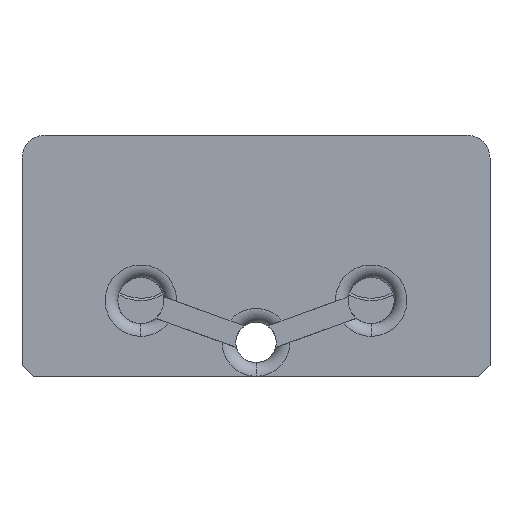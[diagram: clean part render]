
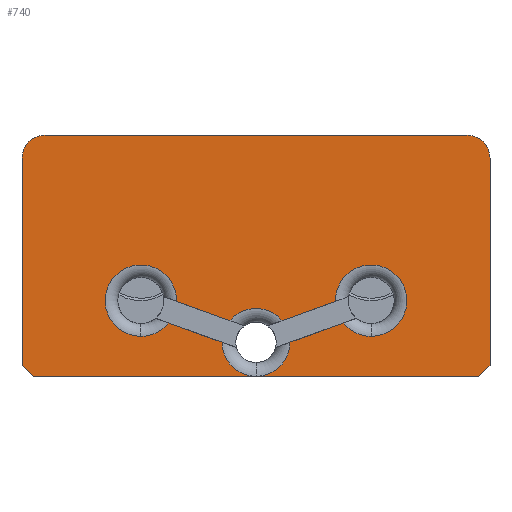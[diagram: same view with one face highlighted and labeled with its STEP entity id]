
A CAD part, front view. The second image highlights one B-rep face of the part: STEP entity #740.
In plain terms, the highlighted planar face has unit normal (0, -1, 0).
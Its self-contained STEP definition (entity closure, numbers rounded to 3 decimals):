
#570=CARTESIAN_POINT('',(0.,94.2,0.));
#571=DIRECTION('',(0.,-1.,0.));
#572=DIRECTION('',(1.,0.,0.));
#573=AXIS2_PLACEMENT_3D('',#570,#571,#572);
#574=PLANE('',#573);
#575=CARTESIAN_POINT('',(-19.32,94.2,-91.));
#576=VERTEX_POINT('',#575);
#577=CARTESIAN_POINT('',(19.32,94.2,-91.));
#578=VERTEX_POINT('',#577);
#579=CARTESIAN_POINT('',(-19.32,94.2,-91.));
#580=DIRECTION('',(1.,0.,-0.));
#581=VECTOR('',#580,38.64);
#582=LINE('',#579,#581);
#583=EDGE_CURVE('',#576,#578,#582,.T.);
#584=ORIENTED_EDGE('',*,*,#583,.T.);
#585=CARTESIAN_POINT('',(20.32,94.2,-90.));
#586=VERTEX_POINT('',#585);
#587=CARTESIAN_POINT('',(19.32,94.2,-91.));
#588=DIRECTION('',(0.707,0.,0.707));
#589=VECTOR('',#588,1.414);
#590=LINE('',#587,#589);
#591=EDGE_CURVE('',#578,#586,#590,.T.);
#592=ORIENTED_EDGE('',*,*,#591,.T.);
#593=CARTESIAN_POINT('',(20.32,94.2,-72.));
#594=VERTEX_POINT('',#593);
#595=CARTESIAN_POINT('',(20.32,94.2,-90.));
#596=DIRECTION('',(0.,0.,1.));
#597=VECTOR('',#596,18.);
#598=LINE('',#595,#597);
#599=EDGE_CURVE('',#586,#594,#598,.T.);
#600=ORIENTED_EDGE('',*,*,#599,.T.);
#601=CARTESIAN_POINT('',(18.32,94.2,-70.));
#602=VERTEX_POINT('',#601);
#603=CARTESIAN_POINT('',(18.32,94.2,-72.));
#604=DIRECTION('',(0.,-1.,0.));
#605=DIRECTION('',(0.,0.,-1.));
#606=AXIS2_PLACEMENT_3D('',#603,#604,#605);
#607=CIRCLE('',#606,2.);
#608=EDGE_CURVE('',#594,#602,#607,.T.);
#609=ORIENTED_EDGE('',*,*,#608,.T.);
#610=CARTESIAN_POINT('',(-18.32,94.2,-70.));
#611=VERTEX_POINT('',#610);
#612=CARTESIAN_POINT('',(18.32,94.2,-70.));
#613=DIRECTION('',(-1.,-0.,0.));
#614=VECTOR('',#613,36.64);
#615=LINE('',#612,#614);
#616=EDGE_CURVE('',#602,#611,#615,.T.);
#617=ORIENTED_EDGE('',*,*,#616,.T.);
#618=CARTESIAN_POINT('',(-20.32,94.2,-72.));
#619=VERTEX_POINT('',#618);
#620=CARTESIAN_POINT('',(-18.32,94.2,-72.));
#621=DIRECTION('',(0.,-1.,0.));
#622=DIRECTION('',(0.,0.,-1.));
#623=AXIS2_PLACEMENT_3D('',#620,#621,#622);
#624=CIRCLE('',#623,2.);
#625=EDGE_CURVE('',#611,#619,#624,.T.);
#626=ORIENTED_EDGE('',*,*,#625,.T.);
#627=CARTESIAN_POINT('',(-20.32,94.2,-90.));
#628=VERTEX_POINT('',#627);
#629=CARTESIAN_POINT('',(-20.32,94.2,-72.));
#630=DIRECTION('',(-0.,-0.,-1.));
#631=VECTOR('',#630,18.);
#632=LINE('',#629,#631);
#633=EDGE_CURVE('',#619,#628,#632,.T.);
#634=ORIENTED_EDGE('',*,*,#633,.T.);
#635=CARTESIAN_POINT('',(-20.32,94.2,-90.));
#636=DIRECTION('',(0.707,0.,-0.707));
#637=VECTOR('',#636,1.414);
#638=LINE('',#635,#637);
#639=EDGE_CURVE('',#628,#576,#638,.T.);
#640=ORIENTED_EDGE('',*,*,#639,.T.);
#641=EDGE_LOOP('',(#584,#592,#600,#609,#617,#626,#634,#640));
#642=FACE_BOUND('',#641,.T.);
#643=CARTESIAN_POINT('',(-2.268,94.2,-86.114));
#644=VERTEX_POINT('',#643);
#645=CARTESIAN_POINT('',(2.268,94.2,-86.114));
#646=VERTEX_POINT('',#645);
#647=CARTESIAN_POINT('',(0.,94.2,-88.));
#648=DIRECTION('',(-0.,1.,-0.));
#649=DIRECTION('',(0.,0.,-1.));
#650=AXIS2_PLACEMENT_3D('',#647,#648,#649);
#651=CIRCLE('',#650,2.95);
#652=EDGE_CURVE('',#644,#646,#651,.T.);
#653=ORIENTED_EDGE('',*,*,#652,.T.);
#654=CARTESIAN_POINT('',(6.901,94.2,-84.435));
#655=VERTEX_POINT('',#654);
#656=CARTESIAN_POINT('',(2.268,94.2,-86.114));
#657=DIRECTION('',(0.94,0.,0.341));
#658=VECTOR('',#657,4.927);
#659=LINE('',#656,#658);
#660=EDGE_CURVE('',#646,#655,#659,.T.);
#661=ORIENTED_EDGE('',*,*,#660,.T.);
#662=CARTESIAN_POINT('',(10.,94.2,-87.475));
#663=VERTEX_POINT('',#662);
#664=CARTESIAN_POINT('',(10.,94.2,-84.375));
#665=DIRECTION('',(-0.,1.,-0.));
#666=DIRECTION('',(0.,0.,-1.));
#667=AXIS2_PLACEMENT_3D('',#664,#665,#666);
#668=CIRCLE('',#667,3.1);
#669=EDGE_CURVE('',#655,#663,#668,.T.);
#670=ORIENTED_EDGE('',*,*,#669,.T.);
#671=CARTESIAN_POINT('',(7.582,94.2,-86.315));
#672=VERTEX_POINT('',#671);
#673=CARTESIAN_POINT('',(10.,94.2,-84.375));
#674=DIRECTION('',(-0.,1.,-0.));
#675=DIRECTION('',(0.,0.,-1.));
#676=AXIS2_PLACEMENT_3D('',#673,#674,#675);
#677=CIRCLE('',#676,3.1);
#678=EDGE_CURVE('',#663,#672,#677,.T.);
#679=ORIENTED_EDGE('',*,*,#678,.T.);
#680=CARTESIAN_POINT('',(2.95,94.2,-87.994));
#681=VERTEX_POINT('',#680);
#682=CARTESIAN_POINT('',(2.95,94.2,-87.994));
#683=DIRECTION('',(0.94,-0.,0.341));
#684=VECTOR('',#683,4.927);
#685=LINE('',#682,#684);
#686=EDGE_CURVE('',#681,#672,#685,.T.);
#687=ORIENTED_EDGE('',*,*,#686,.F.);
#688=CARTESIAN_POINT('',(-0.,94.2,-90.95));
#689=VERTEX_POINT('',#688);
#690=CARTESIAN_POINT('',(0.,94.2,-88.));
#691=DIRECTION('',(-0.,1.,-0.));
#692=DIRECTION('',(0.,0.,-1.));
#693=AXIS2_PLACEMENT_3D('',#690,#691,#692);
#694=CIRCLE('',#693,2.95);
#695=EDGE_CURVE('',#681,#689,#694,.T.);
#696=ORIENTED_EDGE('',*,*,#695,.T.);
#697=CARTESIAN_POINT('',(-2.95,94.2,-87.994));
#698=VERTEX_POINT('',#697);
#699=CARTESIAN_POINT('',(0.,94.2,-88.));
#700=DIRECTION('',(-0.,1.,-0.));
#701=DIRECTION('',(0.,0.,-1.));
#702=AXIS2_PLACEMENT_3D('',#699,#700,#701);
#703=CIRCLE('',#702,2.95);
#704=EDGE_CURVE('',#689,#698,#703,.T.);
#705=ORIENTED_EDGE('',*,*,#704,.T.);
#706=CARTESIAN_POINT('',(-7.582,94.2,-86.315));
#707=VERTEX_POINT('',#706);
#708=CARTESIAN_POINT('',(-7.582,94.2,-86.315));
#709=DIRECTION('',(0.94,-0.,-0.341));
#710=VECTOR('',#709,4.927);
#711=LINE('',#708,#710);
#712=EDGE_CURVE('',#707,#698,#711,.T.);
#713=ORIENTED_EDGE('',*,*,#712,.F.);
#714=CARTESIAN_POINT('',(-10.,94.2,-87.475));
#715=VERTEX_POINT('',#714);
#716=CARTESIAN_POINT('',(-10.,94.2,-84.375));
#717=DIRECTION('',(-0.,1.,-0.));
#718=DIRECTION('',(0.,0.,-1.));
#719=AXIS2_PLACEMENT_3D('',#716,#717,#718);
#720=CIRCLE('',#719,3.1);
#721=EDGE_CURVE('',#707,#715,#720,.T.);
#722=ORIENTED_EDGE('',*,*,#721,.T.);
#723=CARTESIAN_POINT('',(-6.901,94.2,-84.435));
#724=VERTEX_POINT('',#723);
#725=CARTESIAN_POINT('',(-10.,94.2,-84.375));
#726=DIRECTION('',(-0.,1.,-0.));
#727=DIRECTION('',(0.,0.,-1.));
#728=AXIS2_PLACEMENT_3D('',#725,#726,#727);
#729=CIRCLE('',#728,3.1);
#730=EDGE_CURVE('',#715,#724,#729,.T.);
#731=ORIENTED_EDGE('',*,*,#730,.T.);
#732=CARTESIAN_POINT('',(-6.901,94.2,-84.435));
#733=DIRECTION('',(0.94,0.,-0.341));
#734=VECTOR('',#733,4.927);
#735=LINE('',#732,#734);
#736=EDGE_CURVE('',#724,#644,#735,.T.);
#737=ORIENTED_EDGE('',*,*,#736,.T.);
#738=EDGE_LOOP('',(#653,#661,#670,#679,#687,#696,#705,#713,#722,#731,#737));
#739=FACE_BOUND('',#738,.T.);
#740=ADVANCED_FACE('',(#642,#739),#574,.T.);
